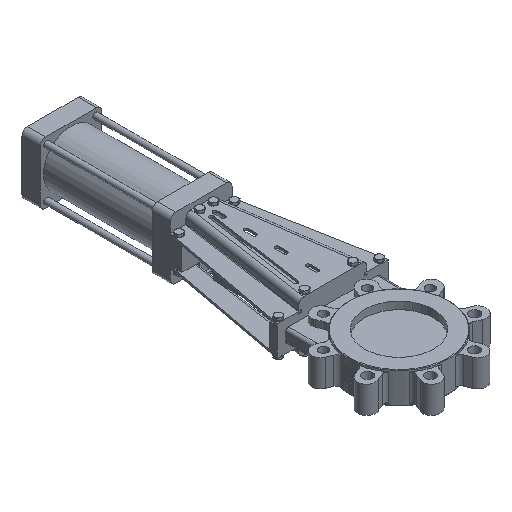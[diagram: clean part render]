
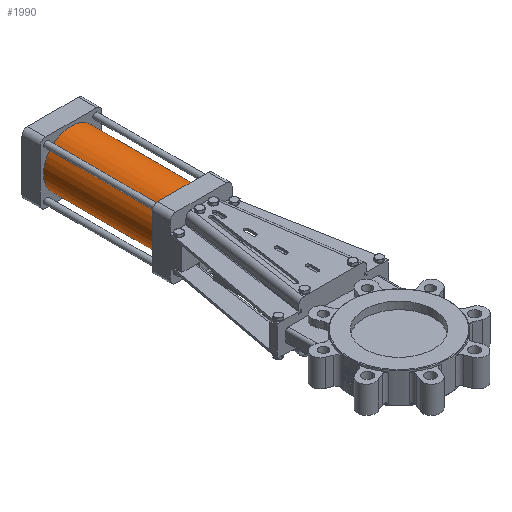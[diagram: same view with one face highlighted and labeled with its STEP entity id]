
A CAD part, isometric view. The second image highlights one B-rep face of the part: STEP entity #1990.
In plain terms, the highlighted cylindrical face has radius 50 mm (diameter 100 mm), a full revolution.
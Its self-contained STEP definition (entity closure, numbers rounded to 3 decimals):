
#1990=ADVANCED_FACE('',(#9425,#9427),#9429,.T.);
#9425=FACE_OUTER_BOUND('',#9426,.T.);
#9426=EDGE_LOOP('',(#15310));
#9427=FACE_OUTER_BOUND('',#9428,.T.);
#9428=EDGE_LOOP('',(#15311));
#9429=CYLINDRICAL_SURFACE('',#9430,50.);
#9430=AXIS2_PLACEMENT_3D('',#9431,#9432,#9433);
#9431=CARTESIAN_POINT('',(0.,392.,0.));
#9432=DIRECTION('',(0.,1.,0.));
#9433=DIRECTION('',(0.,0.,1.));
#15310=ORIENTED_EDGE('',*,*,#19552,.F.);
#15311=ORIENTED_EDGE('',*,*,#18992,.T.);
#18992=EDGE_CURVE('',#21400,#21400,#21401,.T.);
#19552=EDGE_CURVE('',#22398,#22398,#22399,.T.);
#21400=VERTEX_POINT('',#26124);
#21401=CIRCLE('',#26125,50.);
#22398=VERTEX_POINT('',#32258);
#22399=CIRCLE('',#32259,50.);
#26124=CARTESIAN_POINT('',(0.,392.,50.));
#26125=AXIS2_PLACEMENT_3D('',#26126,#26127,#26128);
#26126=CARTESIAN_POINT('',(0.,392.,0.));
#26127=DIRECTION('',(0.,1.,0.));
#26128=DIRECTION('',(0.,0.,1.));
#32258=CARTESIAN_POINT('',(0.,595.,50.));
#32259=AXIS2_PLACEMENT_3D('',#32260,#32261,#32262);
#32260=CARTESIAN_POINT('',(0.,595.,0.));
#32261=DIRECTION('',(0.,1.,0.));
#32262=DIRECTION('',(0.,0.,1.));
